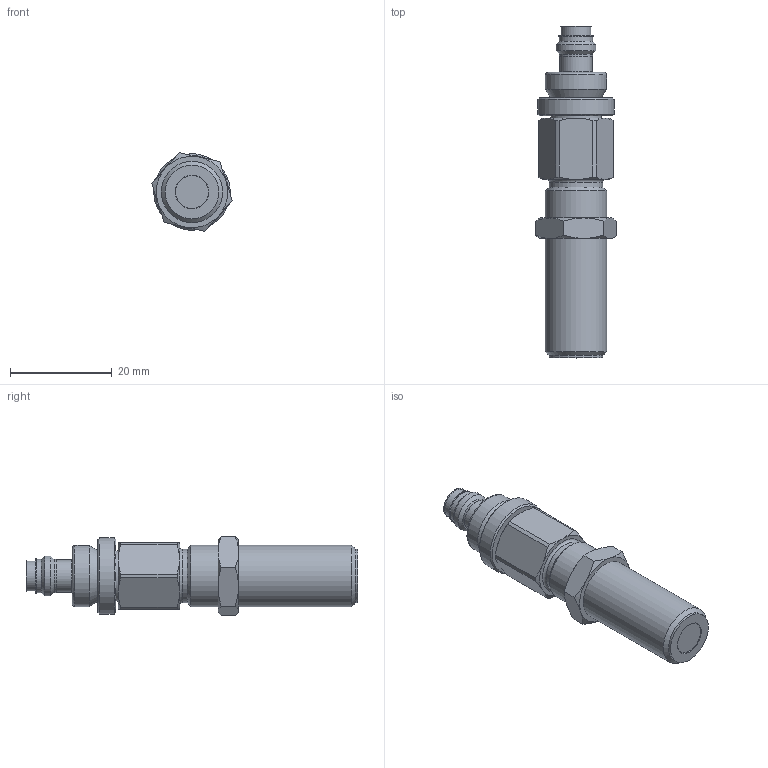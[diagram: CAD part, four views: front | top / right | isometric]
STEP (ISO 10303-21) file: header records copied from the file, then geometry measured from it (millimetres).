
FILE_DESCRIPTION(/* description */ (''),/* implementation_level */ '2;1');
FILE_NAME(/* name */ 'N:\Zeichnungen\Zubehör\Anschlagschrauben\Anschlagschraube ASL-12(1802)\Anschlagschraube ASL-12(1802)3d\Neutrale CAD-Formate\Anschlagschraube ASL-12-I-35.stp',/* time_stamp */ '2020-02-15T08:52:44+01:00',/* author */ ('gose'),/* organization */ (''),/* preprocessor_version */ 'ST-DEVELOPER v17',/* originating_system */ 'Autodesk Inventor 2019',/* authorisation */ '');
FILE_SCHEMA (('AUTOMOTIVE_DESIGN { 1 0 10303 214 3 1 1 }'));
Length unit declared in the file: millimetre
Products named in the file (3): Anschlagschraube ASL-12-I-35; Aschlagschraube ASL-12-I-35; 6026.009
Assembly tree (2 placements, depth 2):
  Anschlagschraube ASL-12-I-35
    Aschlagschraube ASL-12-I-35
    6026.009
Bounding box: 15.79 x 65.1 x 15.4 mm (x, y, z)
Volume: 7123.8 mm3; surface area: 6232.5 mm2
Topology: 5 solids, 7 shells, 150 faces, 395 edges, 277 vertices
Faces by surface type: plane 46, cylinder 43, cone 38, torus 16, bspline 7
Full cylindrical faces by diameter (mm): 0.9 x6, 5.8 x1, 6.4 x2, 6.5 x5, 6.6 x2, 7.3 x2, 7.4 x2, 7.8 x1, 8.55 x1, 9 x1, 10 x5, 10.5 x2, 10.8 x2, 10.917 x1, 12 x2, 15 x1
Entity records: 6700 total; most frequent: CARTESIAN_POINT 2610, DIRECTION 853, ORIENTED_EDGE 790, EDGE_CURVE 395, AXIS2_PLACEMENT_3D 386, VERTEX_POINT 277, CIRCLE 238, EDGE_LOOP 176
